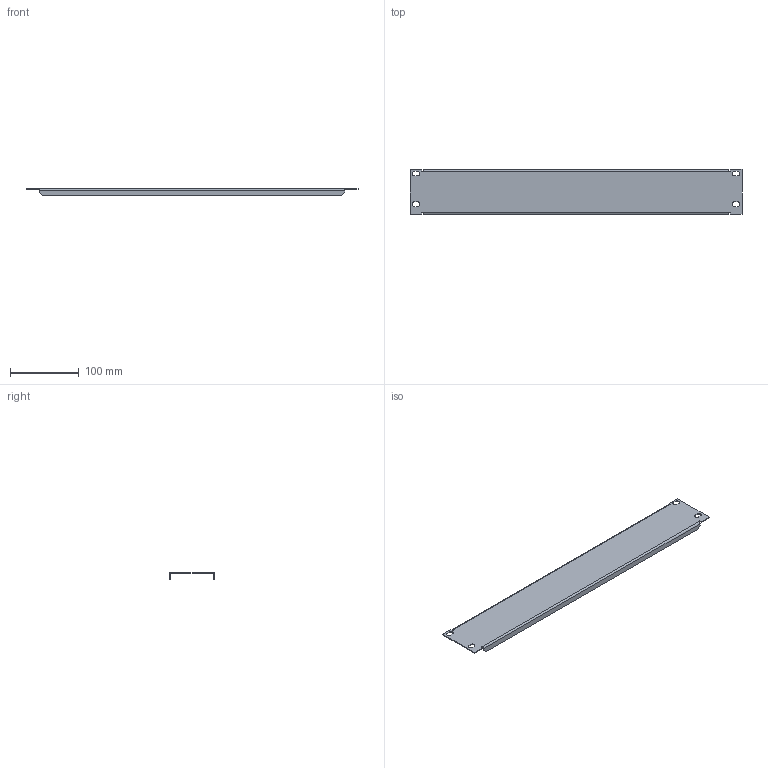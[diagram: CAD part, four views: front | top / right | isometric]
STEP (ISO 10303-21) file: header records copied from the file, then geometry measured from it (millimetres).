
FILE_DESCRIPTION (( 'STEP AP203' ), '1' );
FILE_NAME ('MB 15.48 I Ïàíåëü ãëóõàÿ 19''''.STEP', '2013-01-12T07:02:23', ( 'System' ), ( '' ), 'SwSTEP 2.0', 'SolidWorks 2012', '' );
FILE_SCHEMA (( 'CONFIG_CONTROL_DESIGN' ));
Length unit declared in the file: millimetre
Products named in the file (1): MB 15.48 I Ïàíåëü ãëóõàÿ 19''''
Bounding box: 482.6 x 65.4 x 10 mm (x, y, z)
Volume: 46026.4 mm3; surface area: 78223.4 mm2
Topology: 1 solids, 1 shells, 58 faces, 152 edges, 96 vertices
Faces by surface type: plane 38, cylinder 20
Entity records: 1861 total; most frequent: DIRECTION 310, CARTESIAN_POINT 307, ORIENTED_EDGE 304, EDGE_CURVE 152, VECTOR 112, LINE 112, AXIS2_PLACEMENT_3D 99, VERTEX_POINT 96
